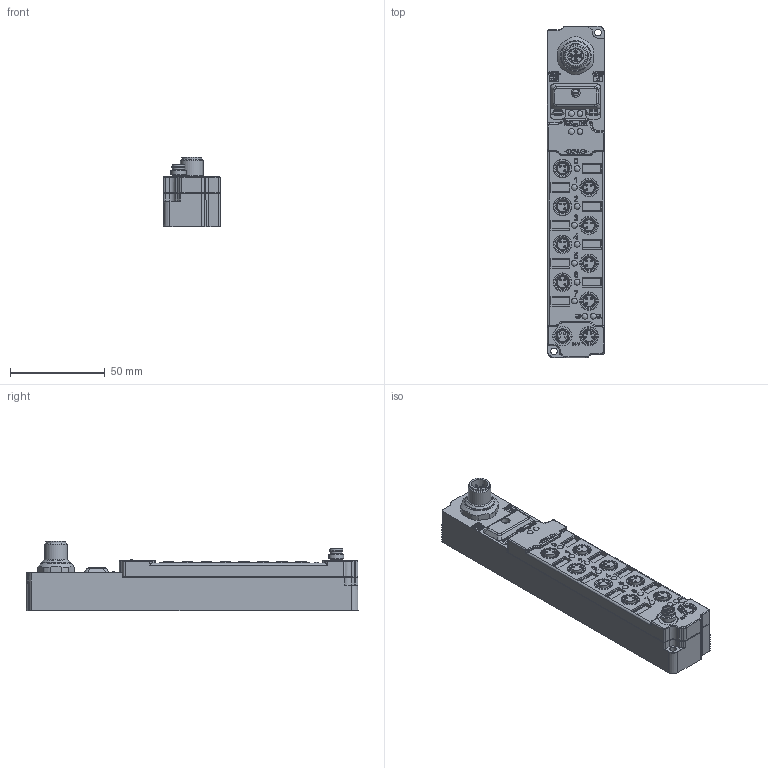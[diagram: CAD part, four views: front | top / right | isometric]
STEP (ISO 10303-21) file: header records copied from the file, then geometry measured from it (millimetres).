
FILE_DESCRIPTION((''),'2;1');
FILE_NAME('C:\TurckZip\SDNB-0404D-M8.stp','2006-11-28T09:44:54',('IKOROL'),(''),'Autodesk Inventor 11','Autodesk Inventor 11','');
FILE_SCHEMA(('AUTOMOTIVE_DESIGN { 1 0 10303 214 1 1 1 1 }'));
Length unit declared in the file: millimetre
Products named in the file (1): Part3
Bounding box: 30.3 x 175.3 x 36.65 mm (x, y, z)
Volume: 57454.3 mm3; surface area: 41520.2 mm2
Topology: 16 solids, 16 shells, 1944 faces, 4666 edges, 3002 vertices
Faces by surface type: plane 888, cylinder 513, bspline 259, cone 233, torus 31, sphere 20
Full cylindrical faces by diameter (mm): 0.8 x37, 1 x52, 1.4 x4, 1.5 x12, 1.55 x1, 1.6 x28, 1.7 x28, 1.8 x5, 2 x2, 2.184 x1, 2.8 x14, 3 x15, 3.05 x20, 3.2 x1, 3.5 x4, 4.6 x1, 5.7 x11, 5.8 x1, 6.5 x2, 6.8 x1, 6.899 x1, 6.95 x9, 8 x3, 8.3 x1, 8.6 x1, 9 x13, 9.4 x1, 9.45 x2, 9.7 x1, 9.9 x1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
Entity records: 57604 total; most frequent: CARTESIAN_POINT 16239, DIRECTION 8117, ORIENTED_EDGE 7866, EDGE_CURVE 3933, AXIS2_PLACEMENT_3D 2958, VERTEX_POINT 2838, EDGE_LOOP 2815, VECTOR 2201
